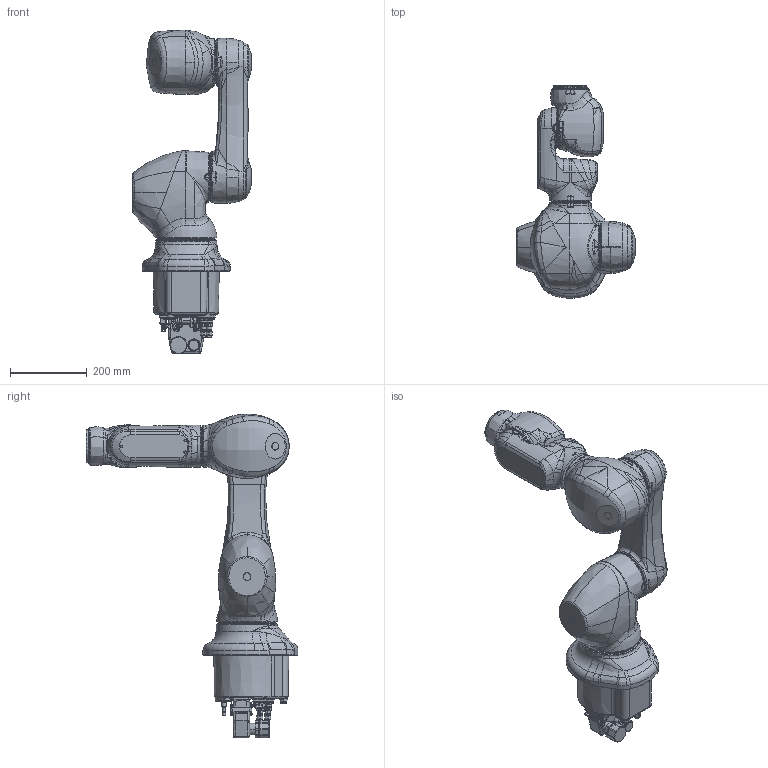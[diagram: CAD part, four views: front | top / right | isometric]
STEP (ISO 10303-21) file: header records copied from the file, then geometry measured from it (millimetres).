
FILE_DESCRIPTION(('CATIA V5 STEP Exchange','CAx-IF Rec.Pracs.--- Composite Materials ---3.4---2017-06-13'),'2;1');
FILE_NAME('D:\モデリング\☆☆☆STEP\MC\MC006V\20250624\RARAS_MC006V\軽量化\Part\step\MC006V-A002.stp','2025-07-03T07:18:59+00:00',('none'),('none'),'CATIA Version 5-6 Release 2020 SP4 HF11','CATIA V5 STEP AP203 v2','none');
FILE_SCHEMA(('CONFIG_CONTROL_DESIGN'));
Length unit declared in the file: millimetre
Products named in the file (1): MC006V-A002
Assembly tree (7 placements, depth 2):
  MC006V-A002
    #57
    #84947
    #93184
    #101529
    #111282
    #126656
    #136529
Bounding box: 310 x 552.62 x 844.69 mm (x, y, z)
Volume: 22988363.5 mm3; surface area: 952700 mm2
Topology: 7 solids, 7 shells, 3307 faces, 8317 edges, 5127 vertices
Faces by surface type: cylinder 1081, plane 833, bspline 599, cone 345, torus 213, sphere 130, revolution 106
Entity records: 141127 total; most frequent: CARTESIAN_POINT 71915, ORIENTED_EDGE 16418, DIRECTION 10052, EDGE_CURVE 8209, VERTEX_POINT 5127, AXIS2_PLACEMENT_3D 5038, EDGE_LOOP 3574, ADVANCED_FACE 3306
